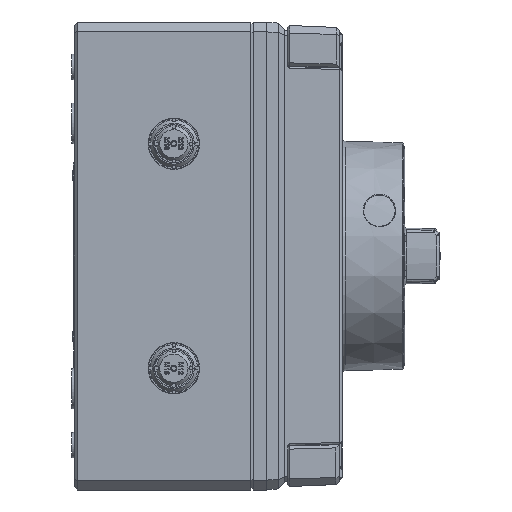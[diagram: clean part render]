
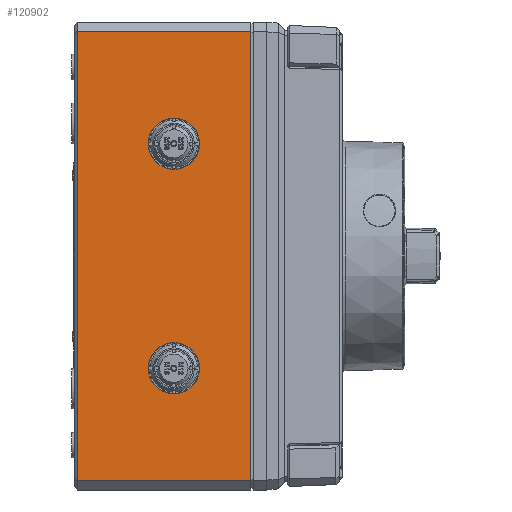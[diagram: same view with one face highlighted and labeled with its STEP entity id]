
A CAD part, front view. The second image highlights one B-rep face of the part: STEP entity #120902.
In plain terms, the highlighted planar face has unit normal (0, -1, 0).
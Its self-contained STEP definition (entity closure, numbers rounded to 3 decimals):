
#2030 = CIRCLE ( 'NONE', #123420, 8.22 ) ;
#3874 = DIRECTION ( 'NONE',  ( 0., 0., 1. ) ) ;
#6819 = VERTEX_POINT ( 'NONE', #47965 ) ;
#7513 = CARTESIAN_POINT ( 'NONE',  ( -0.925, -4503.5, -1671.003 ) ) ;
#8279 = FACE_BOUND ( 'NONE', #59342, .T. ) ;
#9148 = EDGE_CURVE ( 'NONE', #42419, #29264, #87244, .T. ) ;
#9149 = VECTOR ( 'NONE', #122398, 1000. ) ;
#10777 = ORIENTED_EDGE ( 'NONE', *, *, #94077, .T. ) ;
#13727 = EDGE_CURVE ( 'NONE', #81822, #6819, #77783, .T. ) ;
#15696 = PLANE ( 'NONE',  #99834 ) ;
#17002 = DIRECTION ( 'NONE',  ( -1., 0., 0. ) ) ;
#17316 = DIRECTION ( 'NONE',  ( 0., -1., 0. ) ) ;
#19037 = EDGE_CURVE ( 'NONE', #83506, #66149, #2030, .T. ) ;
#20255 = AXIS2_PLACEMENT_3D ( 'NONE', #111195, #122487, #121825 ) ;
#21614 = VERTEX_POINT ( 'NONE', #92670 ) ;
#24740 = ORIENTED_EDGE ( 'NONE', *, *, #28383, .F. ) ;
#28383 = EDGE_CURVE ( 'NONE', #66149, #83506, #92542, .T. ) ;
#29264 = VERTEX_POINT ( 'NONE', #57133 ) ;
#37139 = ORIENTED_EDGE ( 'NONE', *, *, #51674, .T. ) ;
#37831 = DIRECTION ( 'NONE',  ( -1., 0., 0. ) ) ;
#38998 = CARTESIAN_POINT ( 'NONE',  ( -0.125, -4503.5, -1743. ) ) ;
#42366 = CARTESIAN_POINT ( 'NONE',  ( -56.625, -4503.5, -1814.997 ) ) ;
#42419 = VERTEX_POINT ( 'NONE', #7513 ) ;
#43332 = EDGE_CURVE ( 'NONE', #6819, #81822, #98426, .T. ) ;
#44319 = DIRECTION ( 'NONE',  ( 0., 0., -1. ) ) ;
#47965 = CARTESIAN_POINT ( 'NONE',  ( -17.405, -4503.5, -1779. ) ) ;
#49725 = EDGE_CURVE ( 'NONE', #75088, #42419, #96625, .T. ) ;
#51674 = EDGE_CURVE ( 'NONE', #21614, #75088, #109583, .T. ) ;
#51784 = EDGE_LOOP ( 'NONE', ( #37139, #105861, #129837, #10777 ) ) ;
#57133 = CARTESIAN_POINT ( 'NONE',  ( -56.625, -4503.5, -1671.003 ) ) ;
#59032 = DIRECTION ( 'NONE',  ( 0., -1., 0. ) ) ;
#59342 = EDGE_LOOP ( 'NONE', ( #113488, #63158 ) ) ;
#63029 = DIRECTION ( 'NONE',  ( 0., -1., 0. ) ) ;
#63158 = ORIENTED_EDGE ( 'NONE', *, *, #13727, .F. ) ;
#64544 = CARTESIAN_POINT ( 'NONE',  ( -17.405, -4503.5, -1707. ) ) ;
#66149 = VERTEX_POINT ( 'NONE', #111014 ) ;
#73051 = LINE ( 'NONE', #42366, #9149 ) ;
#75088 = VERTEX_POINT ( 'NONE', #123697 ) ;
#77783 = CIRCLE ( 'NONE', #20255, 8.22 ) ;
#79030 = FACE_OUTER_BOUND ( 'NONE', #51784, .T. ) ;
#81822 = VERTEX_POINT ( 'NONE', #91294 ) ;
#83506 = VERTEX_POINT ( 'NONE', #64544 ) ;
#85993 = EDGE_LOOP ( 'NONE', ( #24740, #107321 ) ) ;
#86156 = AXIS2_PLACEMENT_3D ( 'NONE', #95727, #126337, #104413 ) ;
#86759 = DIRECTION ( 'NONE',  ( 0., 0., -1. ) ) ;
#87244 = LINE ( 'NONE', #127879, #98533 ) ;
#89072 = FACE_BOUND ( 'NONE', #85993, .T. ) ;
#91294 = CARTESIAN_POINT ( 'NONE',  ( -33.845, -4503.5, -1779. ) ) ;
#92542 = CIRCLE ( 'NONE', #86156, 8.22 ) ;
#92670 = CARTESIAN_POINT ( 'NONE',  ( -56.625, -4503.5, -1814.997 ) ) ;
#93871 = VECTOR ( 'NONE', #3874, 1000. ) ;
#94077 = EDGE_CURVE ( 'NONE', #29264, #21614, #73051, .T. ) ;
#94878 = VECTOR ( 'NONE', #98935, 1000. ) ;
#95727 = CARTESIAN_POINT ( 'NONE',  ( -25.625, -4503.5, -1707. ) ) ;
#96625 = LINE ( 'NONE', #105969, #93871 ) ;
#98426 = CIRCLE ( 'NONE', #115458, 8.22 ) ;
#98533 = VECTOR ( 'NONE', #37831, 1000. ) ;
#98935 = DIRECTION ( 'NONE',  ( 1., 0., 0. ) ) ;
#99834 = AXIS2_PLACEMENT_3D ( 'NONE', #38998, #59032, #17002 ) ;
#104397 = CARTESIAN_POINT ( 'NONE',  ( -25.625, -4503.5, -1779. ) ) ;
#104413 = DIRECTION ( 'NONE',  ( 0., 0., -1. ) ) ;
#105861 = ORIENTED_EDGE ( 'NONE', *, *, #49725, .T. ) ;
#105969 = CARTESIAN_POINT ( 'NONE',  ( -0.925, -4503.5, -1814.997 ) ) ;
#106137 = CARTESIAN_POINT ( 'NONE',  ( -25.625, -4503.5, -1707. ) ) ;
#107321 = ORIENTED_EDGE ( 'NONE', *, *, #19037, .F. ) ;
#109583 = LINE ( 'NONE', #131478, #94878 ) ;
#111014 = CARTESIAN_POINT ( 'NONE',  ( -33.845, -4503.5, -1707. ) ) ;
#111195 = CARTESIAN_POINT ( 'NONE',  ( -25.625, -4503.5, -1779. ) ) ;
#113488 = ORIENTED_EDGE ( 'NONE', *, *, #43332, .F. ) ;
#115458 = AXIS2_PLACEMENT_3D ( 'NONE', #104397, #63029, #44319 ) ;
#120902 = ADVANCED_FACE ( 'NONE', ( #79030, #8279, #89072 ), #15696, .T. ) ;
#121825 = DIRECTION ( 'NONE',  ( 0., 0., -1. ) ) ;
#122398 = DIRECTION ( 'NONE',  ( 0., 0., -1. ) ) ;
#122487 = DIRECTION ( 'NONE',  ( 0., -1., 0. ) ) ;
#123420 = AXIS2_PLACEMENT_3D ( 'NONE', #106137, #17316, #86759 ) ;
#123697 = CARTESIAN_POINT ( 'NONE',  ( -0.925, -4503.5, -1814.997 ) ) ;
#126337 = DIRECTION ( 'NONE',  ( 0., -1., 0. ) ) ;
#127879 = CARTESIAN_POINT ( 'NONE',  ( -0.125, -4503.5, -1671.003 ) ) ;
#129837 = ORIENTED_EDGE ( 'NONE', *, *, #9148, .T. ) ;
#131478 = CARTESIAN_POINT ( 'NONE',  ( -0.125, -4503.5, -1814.997 ) ) ;
